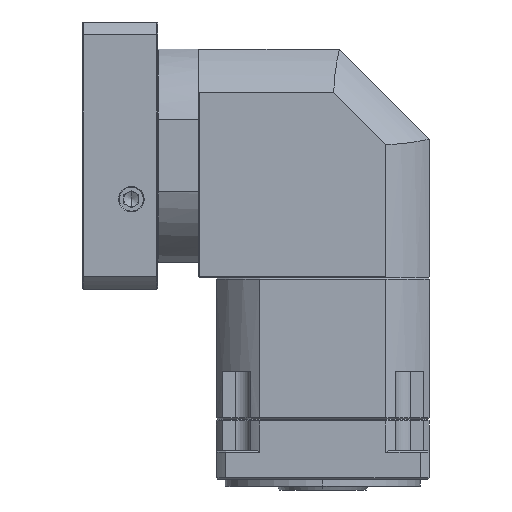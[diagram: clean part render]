
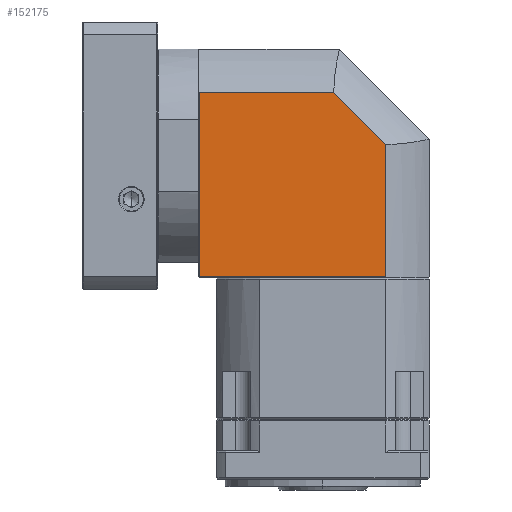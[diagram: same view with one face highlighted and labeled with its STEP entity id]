
A CAD part, left-side view. The second image highlights one B-rep face of the part: STEP entity #152175.
In plain terms, the highlighted planar face has unit normal (-1, 0, 0).
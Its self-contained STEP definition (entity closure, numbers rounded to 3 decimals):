
#2055 = EDGE_CURVE ( 'NONE', #7644, #45384, #53110, .T. ) ;
#3217 = LINE ( 'NONE', #119096, #136575 ) ;
#7644 = VERTEX_POINT ( 'NONE', #12851 ) ;
#10139 = ORIENTED_EDGE ( 'NONE', *, *, #149051, .F. ) ;
#12851 = CARTESIAN_POINT ( 'NONE',  ( -25.661, -48.792, 303.264 ) ) ;
#13708 = DIRECTION ( 'NONE',  ( 0., 0., -1. ) ) ;
#14530 = DIRECTION ( 'NONE',  ( 0., 1., 0. ) ) ;
#16276 = ORIENTED_EDGE ( 'NONE', *, *, #2055, .F. ) ;
#17627 = DIRECTION ( 'NONE',  ( 0., -0.707, -0.707 ) ) ;
#18003 = LINE ( 'NONE', #89329, #122993 ) ;
#18666 = ORIENTED_EDGE ( 'NONE', *, *, #134663, .F. ) ;
#22371 = ORIENTED_EDGE ( 'NONE', *, *, #122306, .F. ) ;
#28613 = FACE_OUTER_BOUND ( 'NONE', #137459, .T. ) ;
#32293 = CARTESIAN_POINT ( 'NONE',  ( -25.661, -166.839, 185.217 ) ) ;
#34030 = CARTESIAN_POINT ( 'NONE',  ( -25.661, -83.465, 268.591 ) ) ;
#39360 = EDGE_CURVE ( 'NONE', #82602, #7644, #95470, .T. ) ;
#45384 = VERTEX_POINT ( 'NONE', #34030 ) ;
#53110 = LINE ( 'NONE', #32293, #139907 ) ;
#60244 = ORIENTED_EDGE ( 'NONE', *, *, #39360, .F. ) ;
#68295 = DIRECTION ( 'NONE',  ( 0., 0., 1. ) ) ;
#77304 = CARTESIAN_POINT ( 'NONE',  ( -25.661, -83.465, 180.549 ) ) ;
#82602 = VERTEX_POINT ( 'NONE', #139362 ) ;
#87868 = AXIS2_PLACEMENT_3D ( 'NONE', #131640, #91627, #13708 ) ;
#89329 = CARTESIAN_POINT ( 'NONE',  ( -25.661, -83.465, 533.9 ) ) ;
#91627 = DIRECTION ( 'NONE',  ( -1., 0., 0. ) ) ;
#92600 = VERTEX_POINT ( 'NONE', #77304 ) ;
#95470 = LINE ( 'NONE', #118077, #111669 ) ;
#103888 = VECTOR ( 'NONE', #14530, 1000. ) ;
#107422 = CARTESIAN_POINT ( 'NONE',  ( -25.661, 40.55, 180.549 ) ) ;
#111669 = VECTOR ( 'NONE', #124245, 1000. ) ;
#118077 = CARTESIAN_POINT ( 'NONE',  ( -25.661, -315.991, 303.264 ) ) ;
#119096 = CARTESIAN_POINT ( 'NONE',  ( -25.661, 40.55, 256.149 ) ) ;
#122306 = EDGE_CURVE ( 'NONE', #45384, #92600, #18003, .T. ) ;
#122388 = VERTEX_POINT ( 'NONE', #107422 ) ;
#122993 = VECTOR ( 'NONE', #129381, 1000. ) ;
#124245 = DIRECTION ( 'NONE',  ( 0., -1., 0. ) ) ;
#125968 = LINE ( 'NONE', #156110, #103888 ) ;
#129381 = DIRECTION ( 'NONE',  ( 0., 0., -1. ) ) ;
#131640 = CARTESIAN_POINT ( 'NONE',  ( -25.661, -35.7, 256.149 ) ) ;
#134663 = EDGE_CURVE ( 'NONE', #122388, #82602, #3217, .T. ) ;
#136575 = VECTOR ( 'NONE', #68295, 1000. ) ;
#137459 = EDGE_LOOP ( 'NONE', ( #60244, #18666, #10139, #22371, #16276 ) ) ;
#139362 = CARTESIAN_POINT ( 'NONE',  ( -25.661, 40.55, 303.264 ) ) ;
#139907 = VECTOR ( 'NONE', #17627, 1000. ) ;
#149051 = EDGE_CURVE ( 'NONE', #92600, #122388, #125968, .T. ) ;
#152175 = ADVANCED_FACE ( 'NONE', ( #28613 ), #158021, .T. ) ;
#156110 = CARTESIAN_POINT ( 'NONE',  ( -25.661, -35.7, 180.549 ) ) ;
#158021 = PLANE ( 'NONE',  #87868 ) ;
